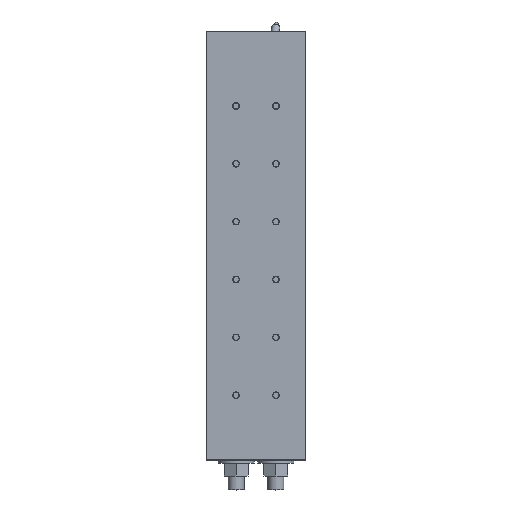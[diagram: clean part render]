
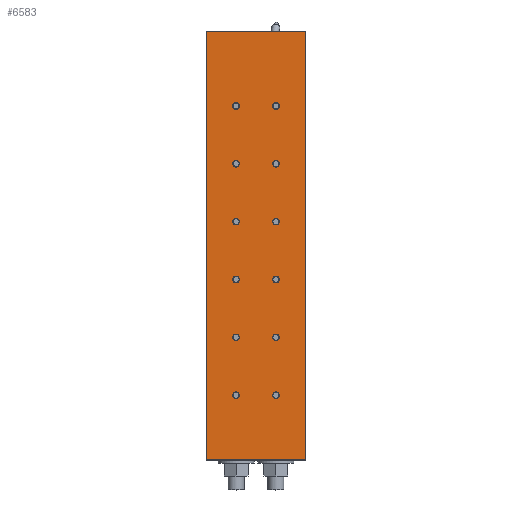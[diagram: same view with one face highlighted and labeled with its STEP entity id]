
A CAD part, top view. The second image highlights one B-rep face of the part: STEP entity #6583.
In plain terms, the highlighted planar face has unit normal (0, 0, 1) as drawn and (0, -1, 0) by its records, which use the part's own axes.
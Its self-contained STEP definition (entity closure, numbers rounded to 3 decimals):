
#916=LINE('',#11510,#1360);
#920=LINE('',#11519,#1364);
#923=LINE('',#11525,#1367);
#926=LINE('',#11531,#1370);
#1360=VECTOR('',#9692,1000.);
#1364=VECTOR('',#9698,1000.);
#1367=VECTOR('',#9703,1000.);
#1370=VECTOR('',#9708,1000.);
#2806=ORIENTED_EDGE('',*,*,#3641,.F.);
#2807=ORIENTED_EDGE('',*,*,#3642,.F.);
#2808=ORIENTED_EDGE('',*,*,#3643,.F.);
#2809=ORIENTED_EDGE('',*,*,#3644,.F.);
#2810=ORIENTED_EDGE('',*,*,#3645,.F.);
#2811=ORIENTED_EDGE('',*,*,#3646,.F.);
#2812=ORIENTED_EDGE('',*,*,#3647,.F.);
#2813=ORIENTED_EDGE('',*,*,#3648,.F.);
#2814=ORIENTED_EDGE('',*,*,#3649,.F.);
#2815=ORIENTED_EDGE('',*,*,#3650,.F.);
#2816=ORIENTED_EDGE('',*,*,#3651,.F.);
#2817=ORIENTED_EDGE('',*,*,#3652,.F.);
#2818=ORIENTED_EDGE('',*,*,#3629,.T.);
#2819=ORIENTED_EDGE('',*,*,#3633,.T.);
#2820=ORIENTED_EDGE('',*,*,#3636,.T.);
#2821=ORIENTED_EDGE('',*,*,#3639,.T.);
#3629=EDGE_CURVE('',#4238,#4239,#916,.T.);
#3633=EDGE_CURVE('',#4239,#4242,#920,.T.);
#3636=EDGE_CURVE('',#4242,#4244,#923,.T.);
#3639=EDGE_CURVE('',#4244,#4238,#926,.T.);
#3641=EDGE_CURVE('',#4246,#4246,#4517,.T.);
#3642=EDGE_CURVE('',#4247,#4247,#4518,.T.);
#3643=EDGE_CURVE('',#4248,#4248,#4519,.T.);
#3644=EDGE_CURVE('',#4249,#4249,#4520,.T.);
#3645=EDGE_CURVE('',#4250,#4250,#4521,.T.);
#3646=EDGE_CURVE('',#4251,#4251,#4522,.T.);
#3647=EDGE_CURVE('',#4252,#4252,#4523,.T.);
#3648=EDGE_CURVE('',#4253,#4253,#4524,.T.);
#3649=EDGE_CURVE('',#4254,#4254,#4525,.T.);
#3650=EDGE_CURVE('',#4255,#4255,#4526,.T.);
#3651=EDGE_CURVE('',#4256,#4256,#4527,.T.);
#3652=EDGE_CURVE('',#4257,#4257,#4528,.T.);
#4238=VERTEX_POINT('',#11511);
#4239=VERTEX_POINT('',#11512);
#4242=VERTEX_POINT('',#11520);
#4244=VERTEX_POINT('',#11526);
#4246=VERTEX_POINT('',#11536);
#4247=VERTEX_POINT('',#11538);
#4248=VERTEX_POINT('',#11540);
#4249=VERTEX_POINT('',#11542);
#4250=VERTEX_POINT('',#11544);
#4251=VERTEX_POINT('',#11546);
#4252=VERTEX_POINT('',#11548);
#4253=VERTEX_POINT('',#11550);
#4254=VERTEX_POINT('',#11552);
#4255=VERTEX_POINT('',#11554);
#4256=VERTEX_POINT('',#11556);
#4257=VERTEX_POINT('',#11558);
#4517=CIRCLE('',#7833,3.324);
#4518=CIRCLE('',#7834,3.324);
#4519=CIRCLE('',#7835,3.324);
#4520=CIRCLE('',#7836,3.324);
#4521=CIRCLE('',#7837,3.324);
#4522=CIRCLE('',#7838,3.324);
#4523=CIRCLE('',#7839,3.324);
#4524=CIRCLE('',#7840,3.324);
#4525=CIRCLE('',#7841,3.324);
#4526=CIRCLE('',#7842,3.324);
#4527=CIRCLE('',#7843,3.324);
#4528=CIRCLE('',#7844,3.324);
#5216=EDGE_LOOP('',(#2806));
#5217=EDGE_LOOP('',(#2807));
#5218=EDGE_LOOP('',(#2808));
#5219=EDGE_LOOP('',(#2809));
#5220=EDGE_LOOP('',(#2810));
#5221=EDGE_LOOP('',(#2811));
#5222=EDGE_LOOP('',(#2812));
#5223=EDGE_LOOP('',(#2813));
#5224=EDGE_LOOP('',(#2814));
#5225=EDGE_LOOP('',(#2815));
#5226=EDGE_LOOP('',(#2816));
#5227=EDGE_LOOP('',(#2817));
#5228=EDGE_LOOP('',(#2818,#2819,#2820,#2821));
#5966=FACE_BOUND('',#5216,.T.);
#5967=FACE_BOUND('',#5217,.T.);
#5968=FACE_BOUND('',#5218,.T.);
#5969=FACE_BOUND('',#5219,.T.);
#5970=FACE_BOUND('',#5220,.T.);
#5971=FACE_BOUND('',#5221,.T.);
#5972=FACE_BOUND('',#5222,.T.);
#5973=FACE_BOUND('',#5223,.T.);
#5974=FACE_BOUND('',#5224,.T.);
#5975=FACE_BOUND('',#5225,.T.);
#5976=FACE_BOUND('',#5226,.T.);
#5977=FACE_BOUND('',#5227,.T.);
#5978=FACE_BOUND('',#5228,.T.);
#6200=PLANE('',#7832);
#6583=ADVANCED_FACE('',(#5966,#5967,#5968,#5969,#5970,#5971,#5972,#5973,
#5974,#5975,#5976,#5977,#5978),#6200,.T.);
#7832=AXIS2_PLACEMENT_3D('',#11534,#9712,#9713);
#7833=AXIS2_PLACEMENT_3D('',#11535,#9714,#9715);
#7834=AXIS2_PLACEMENT_3D('',#11537,#9716,#9717);
#7835=AXIS2_PLACEMENT_3D('',#11539,#9718,#9719);
#7836=AXIS2_PLACEMENT_3D('',#11541,#9720,#9721);
#7837=AXIS2_PLACEMENT_3D('',#11543,#9722,#9723);
#7838=AXIS2_PLACEMENT_3D('',#11545,#9724,#9725);
#7839=AXIS2_PLACEMENT_3D('',#11547,#9726,#9727);
#7840=AXIS2_PLACEMENT_3D('',#11549,#9728,#9729);
#7841=AXIS2_PLACEMENT_3D('',#11551,#9730,#9731);
#7842=AXIS2_PLACEMENT_3D('',#11553,#9732,#9733);
#7843=AXIS2_PLACEMENT_3D('',#11555,#9734,#9735);
#7844=AXIS2_PLACEMENT_3D('',#11557,#9736,#9737);
#9692=DIRECTION('',(0.,0.,-1.));
#9698=DIRECTION('',(1.,0.,0.));
#9703=DIRECTION('',(0.,0.,1.));
#9708=DIRECTION('',(-1.,0.,0.));
#9712=DIRECTION('',(0.,-1.,0.));
#9713=DIRECTION('',(0.,0.,-1.));
#9714=DIRECTION('',(0.,-1.,0.));
#9715=DIRECTION('',(1.,0.,0.));
#9716=DIRECTION('',(0.,-1.,0.));
#9717=DIRECTION('',(1.,0.,0.));
#9718=DIRECTION('',(0.,-1.,0.));
#9719=DIRECTION('',(1.,0.,0.));
#9720=DIRECTION('',(0.,-1.,0.));
#9721=DIRECTION('',(1.,0.,0.));
#9722=DIRECTION('',(0.,-1.,0.));
#9723=DIRECTION('',(1.,0.,0.));
#9724=DIRECTION('',(0.,-1.,0.));
#9725=DIRECTION('',(1.,0.,0.));
#9726=DIRECTION('',(0.,-1.,0.));
#9727=DIRECTION('',(1.,0.,0.));
#9728=DIRECTION('',(0.,-1.,0.));
#9729=DIRECTION('',(1.,0.,0.));
#9730=DIRECTION('',(0.,-1.,0.));
#9731=DIRECTION('',(1.,0.,0.));
#9732=DIRECTION('',(0.,-1.,0.));
#9733=DIRECTION('',(1.,0.,0.));
#9734=DIRECTION('',(0.,-1.,0.));
#9735=DIRECTION('',(1.,0.,0.));
#9736=DIRECTION('',(0.,-1.,0.));
#9737=DIRECTION('',(1.,0.,0.));
#11510=CARTESIAN_POINT('',(0.,0.,430.));
#11511=CARTESIAN_POINT('',(0.,0.,430.));
#11512=CARTESIAN_POINT('',(0.,0.,0.));
#11519=CARTESIAN_POINT('',(0.,0.,0.));
#11520=CARTESIAN_POINT('',(100.,0.,0.));
#11525=CARTESIAN_POINT('',(100.,0.,0.));
#11526=CARTESIAN_POINT('',(100.,0.,430.));
#11531=CARTESIAN_POINT('',(100.,0.,430.));
#11534=CARTESIAN_POINT('',(0.,0.,0.));
#11535=CARTESIAN_POINT('',(70.,0.,75.));
#11536=CARTESIAN_POINT('',(73.324,0.,75.));
#11537=CARTESIAN_POINT('',(70.,0.,133.));
#11538=CARTESIAN_POINT('',(73.324,0.,133.));
#11539=CARTESIAN_POINT('',(70.,0.,191.));
#11540=CARTESIAN_POINT('',(73.324,0.,191.));
#11541=CARTESIAN_POINT('',(70.,0.,249.));
#11542=CARTESIAN_POINT('',(73.324,0.,249.));
#11543=CARTESIAN_POINT('',(70.,0.,307.));
#11544=CARTESIAN_POINT('',(73.324,0.,307.));
#11545=CARTESIAN_POINT('',(70.,0.,365.));
#11546=CARTESIAN_POINT('',(73.324,0.,365.));
#11547=CARTESIAN_POINT('',(30.,0.,365.));
#11548=CARTESIAN_POINT('',(33.324,0.,365.));
#11549=CARTESIAN_POINT('',(30.,0.,307.));
#11550=CARTESIAN_POINT('',(33.324,0.,307.));
#11551=CARTESIAN_POINT('',(30.,0.,249.));
#11552=CARTESIAN_POINT('',(33.324,0.,249.));
#11553=CARTESIAN_POINT('',(30.,0.,191.));
#11554=CARTESIAN_POINT('',(33.324,0.,191.));
#11555=CARTESIAN_POINT('',(30.,0.,133.));
#11556=CARTESIAN_POINT('',(33.324,0.,133.));
#11557=CARTESIAN_POINT('',(30.,0.,75.));
#11558=CARTESIAN_POINT('',(33.324,0.,75.));
